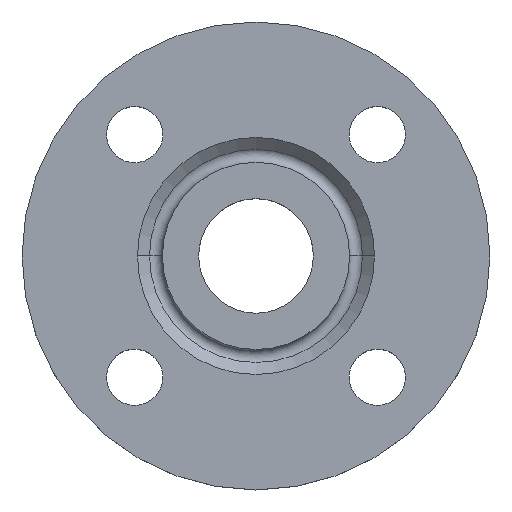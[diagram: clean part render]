
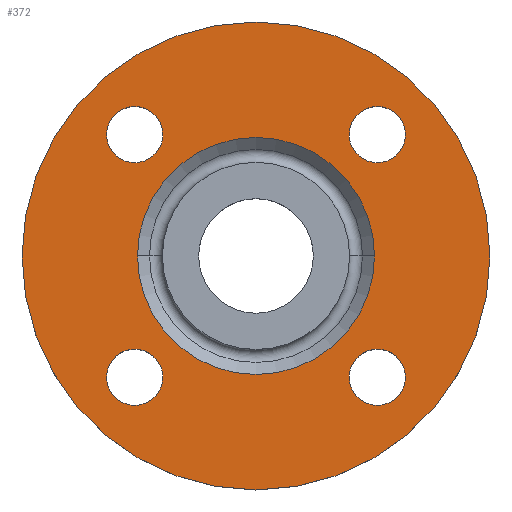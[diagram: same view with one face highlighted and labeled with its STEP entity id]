
A CAD part, top view. The second image highlights one B-rep face of the part: STEP entity #372.
In plain terms, the highlighted planar face has unit normal (0, 0, 1).
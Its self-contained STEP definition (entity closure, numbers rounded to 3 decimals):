
#1 = FACE_BOUND ( 'NONE', #292, .T. ) ;
#7 = VERTEX_POINT ( 'NONE', #265 ) ;
#15 = AXIS2_PLACEMENT_3D ( 'NONE', #715, #150, #405 ) ;
#21 = CARTESIAN_POINT ( 'NONE',  ( 38.891, -38.891, -2. ) ) ;
#26 = EDGE_CURVE ( 'NONE', #627, #667, #485, .T. ) ;
#39 = CARTESIAN_POINT ( 'NONE',  ( 0., 0., -2. ) ) ;
#44 = VERTEX_POINT ( 'NONE', #585 ) ;
#45 = CARTESIAN_POINT ( 'NONE',  ( 0., 0., -2. ) ) ;
#51 = CIRCLE ( 'NONE', #330, 9. ) ;
#52 = ORIENTED_EDGE ( 'NONE', *, *, #78, .T. ) ;
#57 = EDGE_CURVE ( 'NONE', #7, #184, #95, .T. ) ;
#58 = ORIENTED_EDGE ( 'NONE', *, *, #229, .F. ) ;
#62 = ORIENTED_EDGE ( 'NONE', *, *, #787, .T. ) ;
#63 = FACE_BOUND ( 'NONE', #764, .T. ) ;
#68 = EDGE_CURVE ( 'NONE', #44, #230, #103, .T. ) ;
#77 = CARTESIAN_POINT ( 'NONE',  ( 38.891, 38.891, -2. ) ) ;
#78 = EDGE_CURVE ( 'NONE', #667, #627, #207, .T. ) ;
#84 = DIRECTION ( 'NONE',  ( 0., 0., -1. ) ) ;
#92 = CIRCLE ( 'NONE', #233, 9. ) ;
#95 = CIRCLE ( 'NONE', #15, 9. ) ;
#97 = VERTEX_POINT ( 'NONE', #340 ) ;
#98 = CARTESIAN_POINT ( 'NONE',  ( -38.891, -38.891, -2. ) ) ;
#100 = DIRECTION ( 'NONE',  ( 1., 0., 0. ) ) ;
#103 = CIRCLE ( 'NONE', #565, 9. ) ;
#104 = CIRCLE ( 'NONE', #465, 75. ) ;
#121 = VERTEX_POINT ( 'NONE', #720 ) ;
#131 = CARTESIAN_POINT ( 'NONE',  ( -38., 0., -2. ) ) ;
#133 = AXIS2_PLACEMENT_3D ( 'NONE', #77, #332, #584 ) ;
#150 = DIRECTION ( 'NONE',  ( 0., 0., -1. ) ) ;
#153 = EDGE_CURVE ( 'NONE', #230, #44, #262, .T. ) ;
#167 = ORIENTED_EDGE ( 'NONE', *, *, #57, .T. ) ;
#170 = EDGE_CURVE ( 'NONE', #310, #97, #92, .T. ) ;
#184 = VERTEX_POINT ( 'NONE', #600 ) ;
#189 = CARTESIAN_POINT ( 'NONE',  ( 75., 0., -2. ) ) ;
#199 = ORIENTED_EDGE ( 'NONE', *, *, #26, .T. ) ;
#202 = DIRECTION ( 'NONE',  ( 0., 0., -1. ) ) ;
#203 = CARTESIAN_POINT ( 'NONE',  ( -38.891, 38.891, -2. ) ) ;
#207 = CIRCLE ( 'NONE', #669, 9. ) ;
#213 = DIRECTION ( 'NONE',  ( -1., 0., 0. ) ) ;
#218 = AXIS2_PLACEMENT_3D ( 'NONE', #189, #447, #695 ) ;
#229 = EDGE_CURVE ( 'NONE', #708, #121, #104, .T. ) ;
#230 = VERTEX_POINT ( 'NONE', #800 ) ;
#233 = AXIS2_PLACEMENT_3D ( 'NONE', #416, #666, #100 ) ;
#241 = DIRECTION ( 'NONE',  ( -1., 0., 0. ) ) ;
#246 = ORIENTED_EDGE ( 'NONE', *, *, #170, .T. ) ;
#251 = FACE_BOUND ( 'NONE', #354, .T. ) ;
#262 = CIRCLE ( 'NONE', #615, 9. ) ;
#265 = CARTESIAN_POINT ( 'NONE',  ( 47.891, 38.891, -2. ) ) ;
#272 = DIRECTION ( 'NONE',  ( 0., 0., -1. ) ) ;
#290 = EDGE_CURVE ( 'NONE', #750, #378, #411, .T. ) ;
#291 = DIRECTION ( 'NONE',  ( 0., 0., -1. ) ) ;
#292 = EDGE_LOOP ( 'NONE', ( #167, #62 ) ) ;
#298 = DIRECTION ( 'NONE',  ( 0., 0., -1. ) ) ;
#308 = EDGE_CURVE ( 'NONE', #378, #750, #804, .T. ) ;
#310 = VERTEX_POINT ( 'NONE', #499 ) ;
#311 = CARTESIAN_POINT ( 'NONE',  ( 47.891, -38.891, -2. ) ) ;
#314 = FACE_BOUND ( 'NONE', #446, .T. ) ;
#330 = AXIS2_PLACEMENT_3D ( 'NONE', #203, #461, #711 ) ;
#332 = DIRECTION ( 'NONE',  ( 0., 0., -1. ) ) ;
#339 = DIRECTION ( 'NONE',  ( 1., 0., 0. ) ) ;
#340 = CARTESIAN_POINT ( 'NONE',  ( -29.891, 38.891, -2. ) ) ;
#341 = AXIS2_PLACEMENT_3D ( 'NONE', #770, #519, #213 ) ;
#343 = AXIS2_PLACEMENT_3D ( 'NONE', #557, #814, #241 ) ;
#347 = DIRECTION ( 'NONE',  ( 0., 0., -1. ) ) ;
#354 = EDGE_LOOP ( 'NONE', ( #511, #539 ) ) ;
#362 = EDGE_LOOP ( 'NONE', ( #513, #246 ) ) ;
#371 = ORIENTED_EDGE ( 'NONE', *, *, #153, .T. ) ;
#372 = ADVANCED_FACE ( 'NONE', ( #63, #314, #566, #1, #251, #509 ), #760, .T. ) ;
#378 = VERTEX_POINT ( 'NONE', #131 ) ;
#405 = DIRECTION ( 'NONE',  ( 1., 0., 0. ) ) ;
#411 = CIRCLE ( 'NONE', #769, 38. ) ;
#416 = CARTESIAN_POINT ( 'NONE',  ( -38.891, 38.891, -2. ) ) ;
#446 = EDGE_LOOP ( 'NONE', ( #371, #674 ) ) ;
#447 = DIRECTION ( 'NONE',  ( 0., 0., 1. ) ) ;
#449 = CARTESIAN_POINT ( 'NONE',  ( 75., 0., -2. ) ) ;
#459 = DIRECTION ( 'NONE',  ( 1., 0., 0. ) ) ;
#461 = DIRECTION ( 'NONE',  ( 0., 0., -1. ) ) ;
#465 = AXIS2_PLACEMENT_3D ( 'NONE', #39, #291, #542 ) ;
#485 = CIRCLE ( 'NONE', #784, 9. ) ;
#499 = CARTESIAN_POINT ( 'NONE',  ( -47.891, 38.891, -2. ) ) ;
#509 = FACE_OUTER_BOUND ( 'NONE', #619, .T. ) ;
#511 = ORIENTED_EDGE ( 'NONE', *, *, #290, .T. ) ;
#513 = ORIENTED_EDGE ( 'NONE', *, *, #799, .T. ) ;
#515 = ORIENTED_EDGE ( 'NONE', *, *, #545, .F. ) ;
#519 = DIRECTION ( 'NONE',  ( 0., 0., -1. ) ) ;
#531 = DIRECTION ( 'NONE',  ( 1., 0., 0. ) ) ;
#539 = ORIENTED_EDGE ( 'NONE', *, *, #308, .T. ) ;
#542 = DIRECTION ( 'NONE',  ( -1., 0., 0. ) ) ;
#545 = EDGE_CURVE ( 'NONE', #121, #708, #803, .T. ) ;
#551 = DIRECTION ( 'NONE',  ( -1., 0., 0. ) ) ;
#557 = CARTESIAN_POINT ( 'NONE',  ( 0., 0., -2. ) ) ;
#565 = AXIS2_PLACEMENT_3D ( 'NONE', #650, #84, #339 ) ;
#566 = FACE_BOUND ( 'NONE', #362, .T. ) ;
#584 = DIRECTION ( 'NONE',  ( 1., 0., 0. ) ) ;
#585 = CARTESIAN_POINT ( 'NONE',  ( -47.891, -38.891, -2. ) ) ;
#591 = CIRCLE ( 'NONE', #133, 9. ) ;
#597 = DIRECTION ( 'NONE',  ( 1., 0., 0. ) ) ;
#600 = CARTESIAN_POINT ( 'NONE',  ( 29.891, 38.891, -2. ) ) ;
#615 = AXIS2_PLACEMENT_3D ( 'NONE', #98, #347, #597 ) ;
#619 = EDGE_LOOP ( 'NONE', ( #58, #515 ) ) ;
#627 = VERTEX_POINT ( 'NONE', #810 ) ;
#650 = CARTESIAN_POINT ( 'NONE',  ( -38.891, -38.891, -2. ) ) ;
#666 = DIRECTION ( 'NONE',  ( 0., 0., -1. ) ) ;
#667 = VERTEX_POINT ( 'NONE', #311 ) ;
#669 = AXIS2_PLACEMENT_3D ( 'NONE', #21, #272, #531 ) ;
#674 = ORIENTED_EDGE ( 'NONE', *, *, #68, .T. ) ;
#695 = DIRECTION ( 'NONE',  ( 1., 0., 0. ) ) ;
#708 = VERTEX_POINT ( 'NONE', #449 ) ;
#711 = DIRECTION ( 'NONE',  ( 1., 0., 0. ) ) ;
#715 = CARTESIAN_POINT ( 'NONE',  ( 38.891, 38.891, -2. ) ) ;
#720 = CARTESIAN_POINT ( 'NONE',  ( -75., 0., -2. ) ) ;
#750 = VERTEX_POINT ( 'NONE', #773 ) ;
#760 = PLANE ( 'NONE',  #218 ) ;
#764 = EDGE_LOOP ( 'NONE', ( #52, #199 ) ) ;
#769 = AXIS2_PLACEMENT_3D ( 'NONE', #45, #298, #551 ) ;
#770 = CARTESIAN_POINT ( 'NONE',  ( 0., 0., -2. ) ) ;
#773 = CARTESIAN_POINT ( 'NONE',  ( 38., 0., -2. ) ) ;
#775 = CARTESIAN_POINT ( 'NONE',  ( 38.891, -38.891, -2. ) ) ;
#784 = AXIS2_PLACEMENT_3D ( 'NONE', #775, #202, #459 ) ;
#787 = EDGE_CURVE ( 'NONE', #184, #7, #591, .T. ) ;
#799 = EDGE_CURVE ( 'NONE', #97, #310, #51, .T. ) ;
#800 = CARTESIAN_POINT ( 'NONE',  ( -29.891, -38.891, -2. ) ) ;
#803 = CIRCLE ( 'NONE', #341, 75. ) ;
#804 = CIRCLE ( 'NONE', #343, 38. ) ;
#810 = CARTESIAN_POINT ( 'NONE',  ( 29.891, -38.891, -2. ) ) ;
#814 = DIRECTION ( 'NONE',  ( 0., 0., -1. ) ) ;
